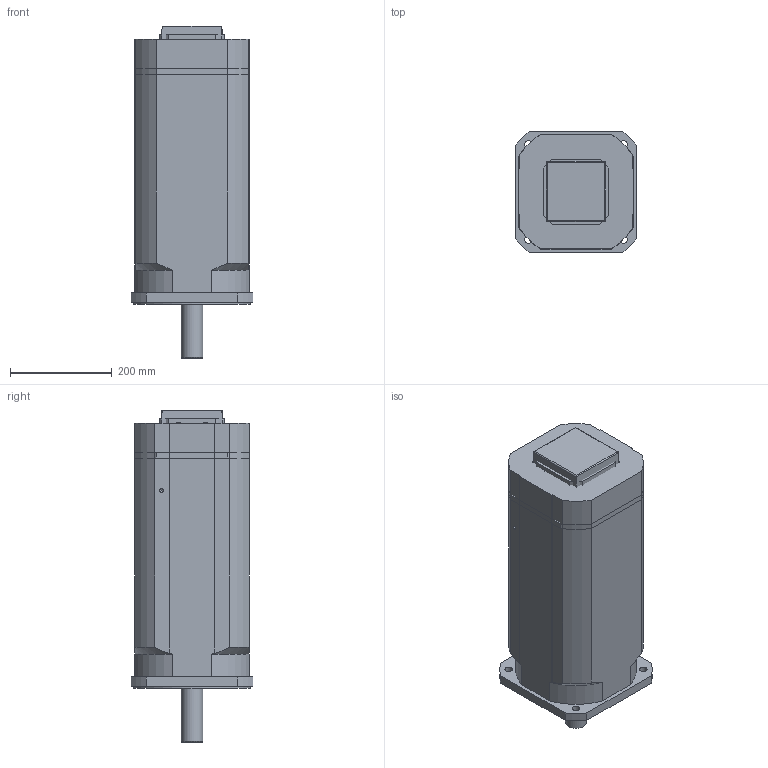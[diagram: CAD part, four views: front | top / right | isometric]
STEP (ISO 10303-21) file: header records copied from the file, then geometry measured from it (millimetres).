
FILE_DESCRIPTION(/* description */ ('Alibre Inc.'),/* implementation_level */ '2;1');
FILE_NAME(/* name */ 'export0',/* time_stamp */ '2011-10-25T12:23:44+02:00',/* author */ (''),/* organization */ (''),/* preprocessor_version */ 'ST-DEVELOPER v12',/* originating_system */ 'Alibre',/* authorisation */ '');
FILE_SCHEMA (('ALIBRE_SCHEMA','CONFIG_CONTROL_DESIGN'));
Length unit declared in the file: millimetre
Products named in the file (8): ID_1
Bounding box: 240 x 240 x 653.5 mm (x, y, z)
Volume: 27224008.3 mm3; surface area: 805468.2 mm2
Topology: 7 solids, 7 shells, 264 faces, 682 edges, 442 vertices
Faces by surface type: plane 123, cylinder 107, torus 15, cone 14, bspline 5
Full cylindrical faces by diameter (mm): 2.7 x4, 6.647 x3, 10.106 x1, 15 x5, 20 x6, 22 x2, 25 x2, 26.75 x1, 30 x2, 42 x1, 45 x1, 230 x1
Entity records: 26977 total; most frequent: CARTESIAN_POINT 6354, DIRECTION 3199, ORIENTED_EDGE 3142, EDGE_CURVE 1571, AXIS2_PLACEMENT_3D 1291, VERTEX_POINT 1097, VECTOR 958, LINE 895
